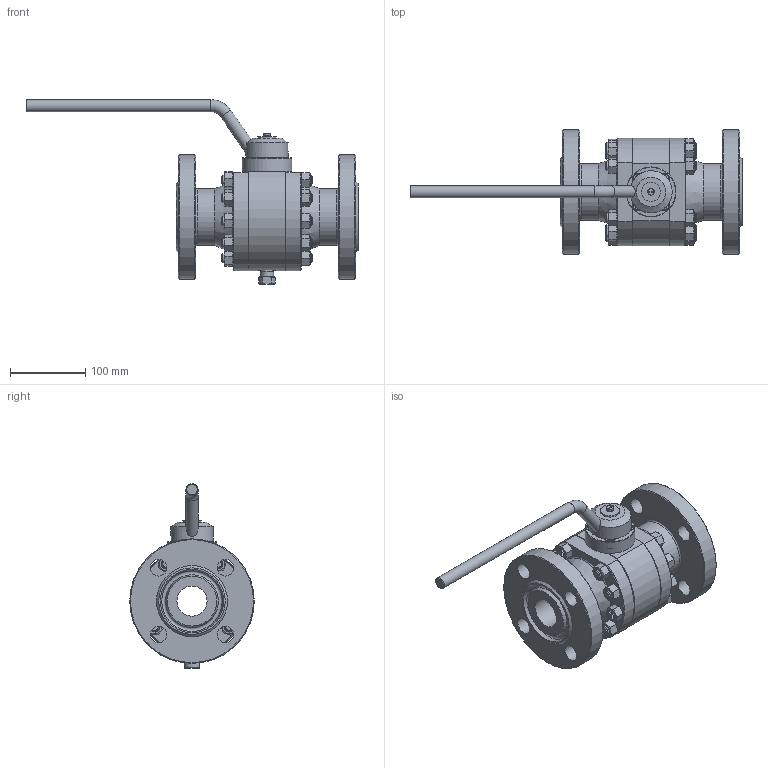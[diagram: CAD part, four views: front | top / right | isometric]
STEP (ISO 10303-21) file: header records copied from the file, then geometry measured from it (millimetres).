
FILE_DESCRIPTION(('STEP AP203'), '1');
FILE_NAME('ZARDP 040.080.27.P.stp', '2013-12-06T06:56:06', ('Øèøêî'), ('ÎÎÎ ÈÊ Ýíåðïðåä-ßðäîñ'), 'ASCON STEP Converter 1.3', 'Kompas 3D', '');
FILE_SCHEMA(('CONFIG_CONTROL_DESIGN','SUPPORT_RESOURCE_SCHEMA'));
Length unit declared in the file: millimetre
Products named in the file (1): 101
Bounding box: 439.81 x 165 x 244.5 mm (x, y, z)
Volume: 2443189.2 mm3; surface area: 367187 mm2
Topology: 1 solids, 19 shells, 664 faces, 1427 edges, 897 vertices
Faces by surface type: plane 355, cone 170, cylinder 132, torus 7
Full cylindrical faces by diameter (mm): 5 x2, 5.3 x1, 6 x4, 6.647 x4, 8 x7, 8.5 x1, 9 x4, 12 x40, 13 x14, 14 x4, 16 x2, 17.33 x1, 22 x8, 24.8 x1, 25 x3, 35 x1, 35.5 x1, 38 x1, 40 x2, 56 x1, 66 x1, 75 x2, 84 x3, 100 x2, 165 x2
Entity records: 29738 total; most frequent: CARTESIAN_POINT 15367, DIRECTION 2981, ORIENTED_EDGE 2846, EDGE_CURVE 1423, AXIS2_PLACEMENT_3D 1207, VERTEX_POINT 897, EDGE_LOOP 798, ADVANCED_FACE 664
